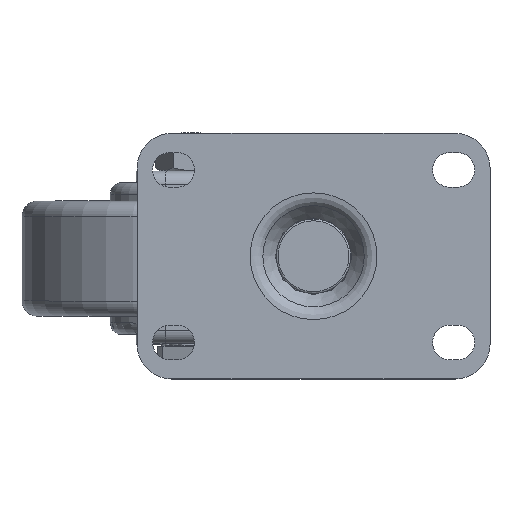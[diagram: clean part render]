
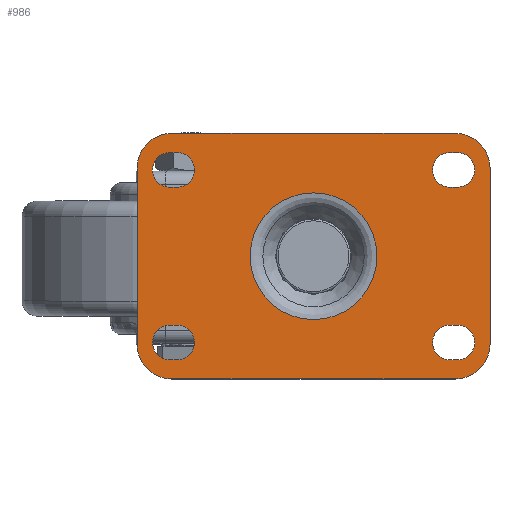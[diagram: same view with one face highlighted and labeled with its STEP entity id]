
A CAD part, top view. The second image highlights one B-rep face of the part: STEP entity #986.
In plain terms, the highlighted planar face has unit normal (0, 0, 1).
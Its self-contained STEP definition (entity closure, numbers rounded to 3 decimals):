
#986=ADVANCED_FACE('',(#3813,#3814,#3815,#3816,#3817,#3818),#1677,.F.);
#1677=PLANE('',#12018);
#2678=LINE('',#16769,#3250);
#2679=LINE('',#16774,#3251);
#2680=LINE('',#16777,#3252);
#2681=LINE('',#16782,#3253);
#2682=LINE('',#16785,#3254);
#2683=LINE('',#16790,#3255);
#2684=LINE('',#16793,#3256);
#2685=LINE('',#16798,#3257);
#2686=LINE('',#16801,#3258);
#2687=LINE('',#16804,#3259);
#2688=LINE('',#16808,#3260);
#2689=LINE('',#16812,#3261);
#2690=LINE('',#16814,#3262);
#2691=LINE('',#16818,#3263);
#3250=VECTOR('',#13290,1.);
#3251=VECTOR('',#13293,1.);
#3252=VECTOR('',#13296,1.);
#3253=VECTOR('',#13299,1.);
#3254=VECTOR('',#13302,1.);
#3255=VECTOR('',#13305,1.);
#3256=VECTOR('',#13308,1.);
#3257=VECTOR('',#13311,1.);
#3258=VECTOR('',#13314,1.);
#3259=VECTOR('',#13315,1.);
#3260=VECTOR('',#13318,1.);
#3261=VECTOR('',#13321,1.);
#3262=VECTOR('',#13322,1.);
#3263=VECTOR('',#13325,1.);
#3813=FACE_BOUND('',#4164,.T.);
#3814=FACE_BOUND('',#4165,.T.);
#3815=FACE_BOUND('',#4166,.T.);
#3816=FACE_BOUND('',#4167,.T.);
#3817=FACE_BOUND('',#4168,.T.);
#3818=FACE_BOUND('',#4169,.T.);
#4164=EDGE_LOOP('',(#5229));
#4165=EDGE_LOOP('',(#5230,#5231,#5232,#5233));
#4166=EDGE_LOOP('',(#5234,#5235,#5236,#5237));
#4167=EDGE_LOOP('',(#5238,#5239,#5240,#5241));
#4168=EDGE_LOOP('',(#5242,#5243,#5244,#5245));
#4169=EDGE_LOOP('',(#5246,#5247,#5248,#5249,#5250,#5251,#5252,#5253,#5254,
#5255));
#5229=ORIENTED_EDGE('',*,*,#9908,.T.);
#5230=ORIENTED_EDGE('',*,*,#9909,.F.);
#5231=ORIENTED_EDGE('',*,*,#9910,.F.);
#5232=ORIENTED_EDGE('',*,*,#9911,.F.);
#5233=ORIENTED_EDGE('',*,*,#9912,.F.);
#5234=ORIENTED_EDGE('',*,*,#9913,.F.);
#5235=ORIENTED_EDGE('',*,*,#9914,.F.);
#5236=ORIENTED_EDGE('',*,*,#9915,.F.);
#5237=ORIENTED_EDGE('',*,*,#9916,.F.);
#5238=ORIENTED_EDGE('',*,*,#9917,.F.);
#5239=ORIENTED_EDGE('',*,*,#9918,.F.);
#5240=ORIENTED_EDGE('',*,*,#9919,.F.);
#5241=ORIENTED_EDGE('',*,*,#9920,.F.);
#5242=ORIENTED_EDGE('',*,*,#9921,.F.);
#5243=ORIENTED_EDGE('',*,*,#9922,.F.);
#5244=ORIENTED_EDGE('',*,*,#9923,.F.);
#5245=ORIENTED_EDGE('',*,*,#9924,.F.);
#5246=ORIENTED_EDGE('',*,*,#9925,.T.);
#5247=ORIENTED_EDGE('',*,*,#9926,.T.);
#5248=ORIENTED_EDGE('',*,*,#9927,.T.);
#5249=ORIENTED_EDGE('',*,*,#9928,.T.);
#5250=ORIENTED_EDGE('',*,*,#9929,.T.);
#5251=ORIENTED_EDGE('',*,*,#9930,.T.);
#5252=ORIENTED_EDGE('',*,*,#9931,.T.);
#5253=ORIENTED_EDGE('',*,*,#9932,.T.);
#5254=ORIENTED_EDGE('',*,*,#9933,.T.);
#5255=ORIENTED_EDGE('',*,*,#9934,.T.);
#8703=VERTEX_POINT('',#16768);
#8704=VERTEX_POINT('',#16770);
#8705=VERTEX_POINT('',#16771);
#8706=VERTEX_POINT('',#16773);
#8707=VERTEX_POINT('',#16775);
#8708=VERTEX_POINT('',#16778);
#8709=VERTEX_POINT('',#16779);
#8710=VERTEX_POINT('',#16781);
#8711=VERTEX_POINT('',#16783);
#8712=VERTEX_POINT('',#16786);
#8713=VERTEX_POINT('',#16787);
#8714=VERTEX_POINT('',#16789);
#8715=VERTEX_POINT('',#16791);
#8716=VERTEX_POINT('',#16794);
#8717=VERTEX_POINT('',#16795);
#8718=VERTEX_POINT('',#16797);
#8719=VERTEX_POINT('',#16799);
#8720=VERTEX_POINT('',#16802);
#8721=VERTEX_POINT('',#16803);
#8722=VERTEX_POINT('',#16805);
#8723=VERTEX_POINT('',#16807);
#8724=VERTEX_POINT('',#16809);
#8725=VERTEX_POINT('',#16811);
#8726=VERTEX_POINT('',#16813);
#8727=VERTEX_POINT('',#16815);
#8728=VERTEX_POINT('',#16817);
#8729=VERTEX_POINT('',#16819);
#9908=EDGE_CURVE('',#8703,#8703,#11517,.T.);
#9909=EDGE_CURVE('',#8704,#8705,#2678,.T.);
#9910=EDGE_CURVE('',#8706,#8704,#11518,.T.);
#9911=EDGE_CURVE('',#8707,#8706,#2679,.T.);
#9912=EDGE_CURVE('',#8705,#8707,#11519,.T.);
#9913=EDGE_CURVE('',#8708,#8709,#2680,.T.);
#9914=EDGE_CURVE('',#8710,#8708,#11520,.T.);
#9915=EDGE_CURVE('',#8711,#8710,#2681,.T.);
#9916=EDGE_CURVE('',#8709,#8711,#11521,.T.);
#9917=EDGE_CURVE('',#8712,#8713,#2682,.T.);
#9918=EDGE_CURVE('',#8714,#8712,#11522,.T.);
#9919=EDGE_CURVE('',#8715,#8714,#2683,.T.);
#9920=EDGE_CURVE('',#8713,#8715,#11523,.T.);
#9921=EDGE_CURVE('',#8716,#8717,#2684,.T.);
#9922=EDGE_CURVE('',#8718,#8716,#11524,.T.);
#9923=EDGE_CURVE('',#8719,#8718,#2685,.T.);
#9924=EDGE_CURVE('',#8717,#8719,#11525,.T.);
#9925=EDGE_CURVE('',#8720,#8721,#2686,.T.);
#9926=EDGE_CURVE('',#8721,#8722,#2687,.T.);
#9927=EDGE_CURVE('',#8722,#8723,#11526,.T.);
#9928=EDGE_CURVE('',#8723,#8724,#2688,.T.);
#9929=EDGE_CURVE('',#8724,#8725,#11527,.T.);
#9930=EDGE_CURVE('',#8725,#8726,#2689,.T.);
#9931=EDGE_CURVE('',#8726,#8727,#2690,.T.);
#9932=EDGE_CURVE('',#8727,#8728,#11528,.T.);
#9933=EDGE_CURVE('',#8728,#8729,#2691,.T.);
#9934=EDGE_CURVE('',#8729,#8720,#11529,.T.);
#11517=CIRCLE('',#12005,16.522);
#11518=CIRCLE('',#12006,4.5);
#11519=CIRCLE('',#12007,4.5);
#11520=CIRCLE('',#12008,4.5);
#11521=CIRCLE('',#12009,4.5);
#11522=CIRCLE('',#12010,4.5);
#11523=CIRCLE('',#12011,4.5);
#11524=CIRCLE('',#12012,4.5);
#11525=CIRCLE('',#12013,4.5);
#11526=CIRCLE('',#12014,9.);
#11527=CIRCLE('',#12015,9.);
#11528=CIRCLE('',#12016,9.);
#11529=CIRCLE('',#12017,9.);
#12005=AXIS2_PLACEMENT_3D('',#16767,#13288,#13289);
#12006=AXIS2_PLACEMENT_3D('',#16772,#13291,#13292);
#12007=AXIS2_PLACEMENT_3D('',#16776,#13294,#13295);
#12008=AXIS2_PLACEMENT_3D('',#16780,#13297,#13298);
#12009=AXIS2_PLACEMENT_3D('',#16784,#13300,#13301);
#12010=AXIS2_PLACEMENT_3D('',#16788,#13303,#13304);
#12011=AXIS2_PLACEMENT_3D('',#16792,#13306,#13307);
#12012=AXIS2_PLACEMENT_3D('',#16796,#13309,#13310);
#12013=AXIS2_PLACEMENT_3D('',#16800,#13312,#13313);
#12014=AXIS2_PLACEMENT_3D('',#16806,#13316,#13317);
#12015=AXIS2_PLACEMENT_3D('',#16810,#13319,#13320);
#12016=AXIS2_PLACEMENT_3D('',#16816,#13323,#13324);
#12017=AXIS2_PLACEMENT_3D('',#16820,#13326,#13327);
#12018=AXIS2_PLACEMENT_3D('',#16821,#13328,#13329);
#13288=DIRECTION('',(0.,0.,-1.));
#13289=DIRECTION('',(-1.,0.,0.));
#13290=DIRECTION('',(1.,0.,0.));
#13291=DIRECTION('',(0.,0.,1.));
#13292=DIRECTION('',(1.,0.,0.));
#13293=DIRECTION('',(-1.,0.,0.));
#13294=DIRECTION('',(0.,0.,1.));
#13295=DIRECTION('',(1.,0.,0.));
#13296=DIRECTION('',(1.,0.,0.));
#13297=DIRECTION('',(0.,0.,1.));
#13298=DIRECTION('',(1.,0.,0.));
#13299=DIRECTION('',(-1.,0.,0.));
#13300=DIRECTION('',(0.,0.,1.));
#13301=DIRECTION('',(1.,0.,0.));
#13302=DIRECTION('',(1.,0.,0.));
#13303=DIRECTION('',(0.,0.,1.));
#13304=DIRECTION('',(1.,0.,0.));
#13305=DIRECTION('',(-1.,0.,0.));
#13306=DIRECTION('',(0.,0.,1.));
#13307=DIRECTION('',(1.,0.,0.));
#13308=DIRECTION('',(1.,0.,0.));
#13309=DIRECTION('',(0.,0.,1.));
#13310=DIRECTION('',(1.,0.,0.));
#13311=DIRECTION('',(-1.,0.,0.));
#13312=DIRECTION('',(0.,0.,1.));
#13313=DIRECTION('',(1.,0.,0.));
#13314=DIRECTION('',(-1.,0.,0.));
#13315=DIRECTION('',(-1.,0.,0.));
#13316=DIRECTION('',(0.,0.,1.));
#13317=DIRECTION('',(1.,0.,0.));
#13318=DIRECTION('',(0.,-1.,0.));
#13319=DIRECTION('',(0.,0.,1.));
#13320=DIRECTION('',(1.,0.,0.));
#13321=DIRECTION('',(1.,0.,0.));
#13322=DIRECTION('',(1.,0.,0.));
#13323=DIRECTION('',(0.,0.,1.));
#13324=DIRECTION('',(-1.,0.,0.));
#13325=DIRECTION('',(0.,1.,0.));
#13326=DIRECTION('',(0.,0.,1.));
#13327=DIRECTION('',(-1.,0.,0.));
#13328=DIRECTION('',(0.,0.,-1.));
#13329=DIRECTION('',(1.,0.,0.));
#16767=CARTESIAN_POINT('',(0.,0.,0.));
#16768=CARTESIAN_POINT('',(-16.522,0.,0.));
#16769=CARTESIAN_POINT('',(-37.5,18.,0.));
#16770=CARTESIAN_POINT('',(-37.5,18.,0.));
#16771=CARTESIAN_POINT('',(-35.5,18.,0.));
#16772=CARTESIAN_POINT('',(-37.5,22.5,0.));
#16773=CARTESIAN_POINT('',(-37.5,27.,0.));
#16774=CARTESIAN_POINT('',(-37.5,27.,0.));
#16775=CARTESIAN_POINT('',(-35.5,27.,0.));
#16776=CARTESIAN_POINT('',(-35.5,22.5,0.));
#16777=CARTESIAN_POINT('',(-37.5,-27.,0.));
#16778=CARTESIAN_POINT('',(-37.5,-27.,0.));
#16779=CARTESIAN_POINT('',(-35.5,-27.,0.));
#16780=CARTESIAN_POINT('',(-37.5,-22.5,0.));
#16781=CARTESIAN_POINT('',(-37.5,-18.,0.));
#16782=CARTESIAN_POINT('',(-37.5,-18.,0.));
#16783=CARTESIAN_POINT('',(-35.5,-18.,0.));
#16784=CARTESIAN_POINT('',(-35.5,-22.5,0.));
#16785=CARTESIAN_POINT('',(35.5,-27.,0.));
#16786=CARTESIAN_POINT('',(35.5,-27.,0.));
#16787=CARTESIAN_POINT('',(37.5,-27.,0.));
#16788=CARTESIAN_POINT('',(35.5,-22.5,0.));
#16789=CARTESIAN_POINT('',(35.5,-18.,0.));
#16790=CARTESIAN_POINT('',(35.5,-18.,0.));
#16791=CARTESIAN_POINT('',(37.5,-18.,0.));
#16792=CARTESIAN_POINT('',(37.5,-22.5,0.));
#16793=CARTESIAN_POINT('',(35.5,18.,0.));
#16794=CARTESIAN_POINT('',(35.5,18.,0.));
#16795=CARTESIAN_POINT('',(37.5,18.,0.));
#16796=CARTESIAN_POINT('',(35.5,22.5,0.));
#16797=CARTESIAN_POINT('',(35.5,27.,0.));
#16798=CARTESIAN_POINT('',(35.5,27.,0.));
#16799=CARTESIAN_POINT('',(37.5,27.,0.));
#16800=CARTESIAN_POINT('',(37.5,22.5,0.));
#16801=CARTESIAN_POINT('',(-37.,32.,0.));
#16802=CARTESIAN_POINT('',(37.,32.,0.));
#16803=CARTESIAN_POINT('',(0.,32.,0.));
#16804=CARTESIAN_POINT('',(-37.,32.,0.));
#16805=CARTESIAN_POINT('',(-37.,32.,0.));
#16806=CARTESIAN_POINT('',(-37.,23.,0.));
#16807=CARTESIAN_POINT('',(-46.,23.,0.));
#16808=CARTESIAN_POINT('',(-46.,23.,0.));
#16809=CARTESIAN_POINT('',(-46.,-23.,0.));
#16810=CARTESIAN_POINT('',(-37.,-23.,0.));
#16811=CARTESIAN_POINT('',(-37.,-32.,0.));
#16812=CARTESIAN_POINT('',(-37.,-32.,0.));
#16813=CARTESIAN_POINT('',(0.,-32.,0.));
#16814=CARTESIAN_POINT('',(-37.,-32.,0.));
#16815=CARTESIAN_POINT('',(37.,-32.,0.));
#16816=CARTESIAN_POINT('',(37.,-23.,0.));
#16817=CARTESIAN_POINT('',(46.,-23.,0.));
#16818=CARTESIAN_POINT('',(46.,23.,0.));
#16819=CARTESIAN_POINT('',(46.,23.,0.));
#16820=CARTESIAN_POINT('',(37.,23.,0.));
#16821=CARTESIAN_POINT('',(-32.,0.,0.));
